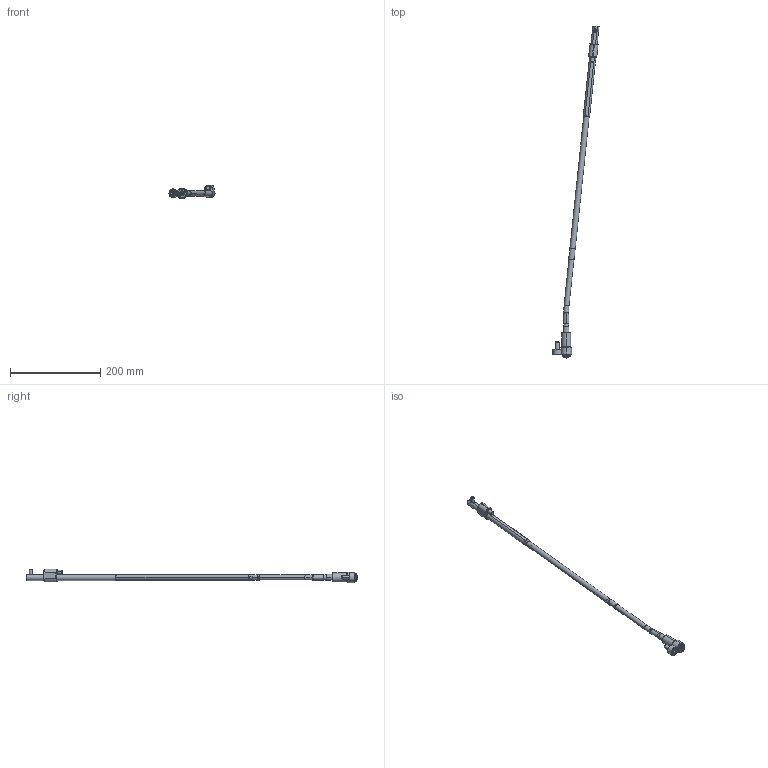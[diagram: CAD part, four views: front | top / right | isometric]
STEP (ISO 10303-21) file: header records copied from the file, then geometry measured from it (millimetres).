
FILE_DESCRIPTION (( 'STEP AP214' ), '1' );
FILE_NAME ('WL120100-EJE 6°.STEP', '2021-03-19T15:34:37', ( '' ), ( '' ), 'SwSTEP 2.0', 'SolidWorks 2019', '' );
FILE_SCHEMA (( 'AUTOMOTIVE_DESIGN' ));
Length unit declared in the file: millimetre
Products named in the file (17): WL120100-EJE 6°; WL120100-E; Web-WL12-XX_ON-WL120100-6; 1DIN912645_DIN 912 M6 x 45 --- 45C; Web-WL12-F01; WL120100-D; Web-WL12-A2; WL120100-B; Web-WL12-A3; WL120100-B1; Web-WL12-A1; 8WL12EJEP; 9DR2808-TOR; 1DIN912820_DIN 912 M8 x 20 --- 20C; 3IMAN5X3-150_con sellador; Web-WL12-F00.SLDPRT; Web-WL12-A8
Assembly tree (16 placements, depth 3):
  WL120100-EJE 6°
    Web-WL12-A8
    Web-WL12-XX_ON-WL120100-6
    Web-WL12-A3
    Web-WL12-A2
    Web-WL12-A1
    Web-WL12-F00.SLDPRT
      Web-WL12-F01
      1DIN912820_DIN 912 M8 x 20 --- 20C
      1DIN912645_DIN 912 M6 x 45 --- 45C
    WL120100-D
    8WL12EJEP
    WL120100-E
    9DR2808-TOR
    WL120100-B
      WL120100-B1
      3IMAN5X3-150_con sellador
Bounding box: 102.04 x 735.27 x 29.9 mm (x, y, z)
Volume: 113342 mm3; surface area: 49842.4 mm2
Topology: 15 solids, 15 shells, 432 faces, 906 edges, 525 vertices
Faces by surface type: plane 139, cylinder 123, cone 120, torus 50
Entity records: 13661 total; most frequent: DIRECTION 2240, CARTESIAN_POINT 2104, ORIENTED_EDGE 1788, AXIS2_PLACEMENT_3D 929, EDGE_CURVE 894, VERTEX_POINT 525, EDGE_LOOP 477, CIRCLE 476
